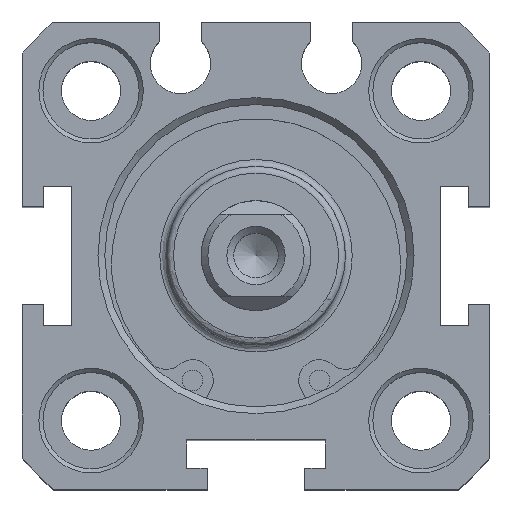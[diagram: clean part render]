
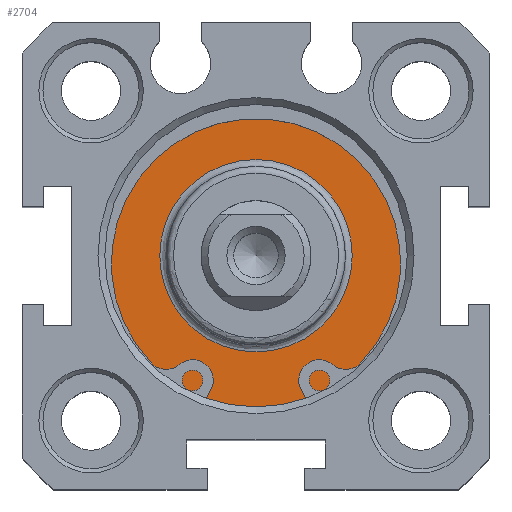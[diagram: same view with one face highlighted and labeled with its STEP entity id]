
A CAD part, top view. The second image highlights one B-rep face of the part: STEP entity #2704.
In plain terms, the highlighted planar face has unit normal (0, 0, 1).
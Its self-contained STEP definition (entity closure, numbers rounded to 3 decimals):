
#2653=CARTESIAN_POINT('',(0.24,8.683,26.8));
#2654=VERTEX_POINT('',#2653);
#2655=CARTESIAN_POINT('',(0.24,1.683,26.8));
#2656=DIRECTION('',(0.0,0.0,1.0));
#2657=DIRECTION('',(0.0,-1.0,0.0));
#2658=AXIS2_PLACEMENT_3D('',#2655,#2656,#2657);
#2659=CIRCLE('',#2658,7.);
#2660=EDGE_CURVE('',#2654,#2654,#2659,.T.);
#2685=CARTESIAN_POINT('',(0.24,10.433,26.8));
#2686=DIRECTION('',(0.0,0.0,1.0));
#2687=DIRECTION('',(1.0,0.0,0.0));
#2688=AXIS2_PLACEMENT_3D('',#2685,#2686,#2687);
#2689=PLANE('',#2688);
#2690=CARTESIAN_POINT('',(0.24,12.683,26.8));
#2691=VERTEX_POINT('',#2690);
#2692=CARTESIAN_POINT('',(0.24,1.683,26.8));
#2693=DIRECTION('',(0.0,0.0,-1.0));
#2694=DIRECTION('',(0.0,1.0,0.0));
#2695=AXIS2_PLACEMENT_3D('',#2692,#2693,#2694);
#2696=CIRCLE('',#2695,11.0);
#2697=EDGE_CURVE('',#2691,#2691,#2696,.T.);
#2698=ORIENTED_EDGE('',*,*,#2697,.F.);
#2699=EDGE_LOOP('',(#2698));
#2700=FACE_OUTER_BOUND('',#2699,.T.);
#2701=ORIENTED_EDGE('',*,*,#2660,.F.);
#2702=EDGE_LOOP('',(#2701));
#2703=FACE_BOUND('',#2702,.T.);
#2704=ADVANCED_FACE('',(#2700,#2703),#2689,.T.);
